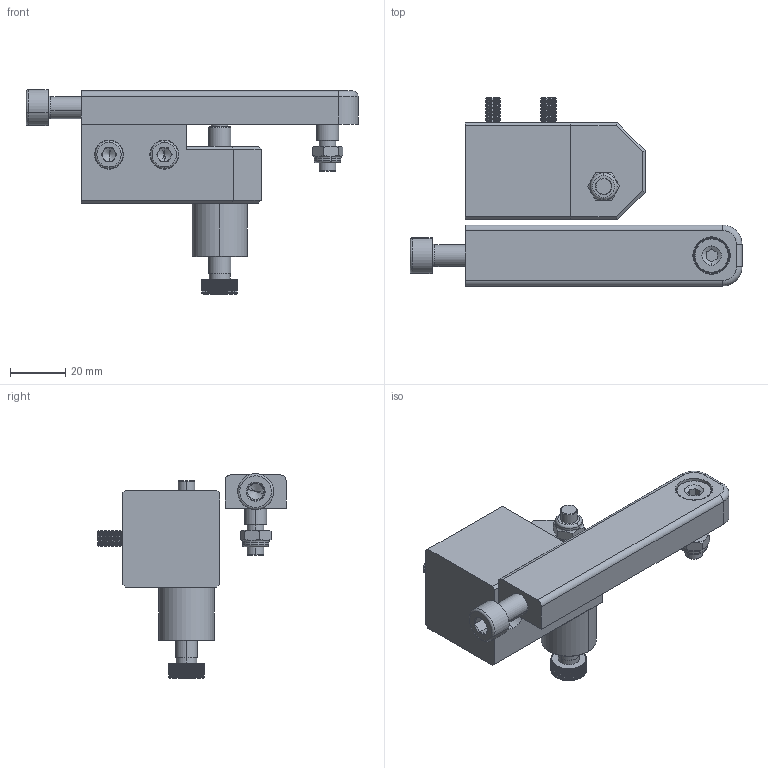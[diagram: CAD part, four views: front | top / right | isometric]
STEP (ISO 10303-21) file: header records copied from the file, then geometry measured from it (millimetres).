
FILE_DESCRIPTION((''),'2;1');
FILE_NAME('6158125220','2016-06-02T',('greextsd'),(''),'CREO PARAMETRIC BY PTC INC, 2016050','CREO PARAMETRIC BY PTC INC, 2016050','');
FILE_SCHEMA(('CONFIG_CONTROL_DESIGN'));
Length unit declared in the file: millimetre
Products named in the file (1): 6158125220
Bounding box: 120 x 68 x 73.98 mm (x, y, z)
Volume: 99119.2 mm3; surface area: 27917 mm2
Topology: 3 solids, 3 shells, 947 faces, 2371 edges, 1453 vertices
Faces by surface type: plane 510, cone 358, cylinder 55, torus 24
Entity records: 29066 total; most frequent: CARTESIAN_POINT 7073, ORIENTED_EDGE 4730, DIRECTION 4327, EDGE_CURVE 2365, AXIS2_PLACEMENT_3D 1474, VERTEX_POINT 1453, VECTOR 1379, LINE 1379
